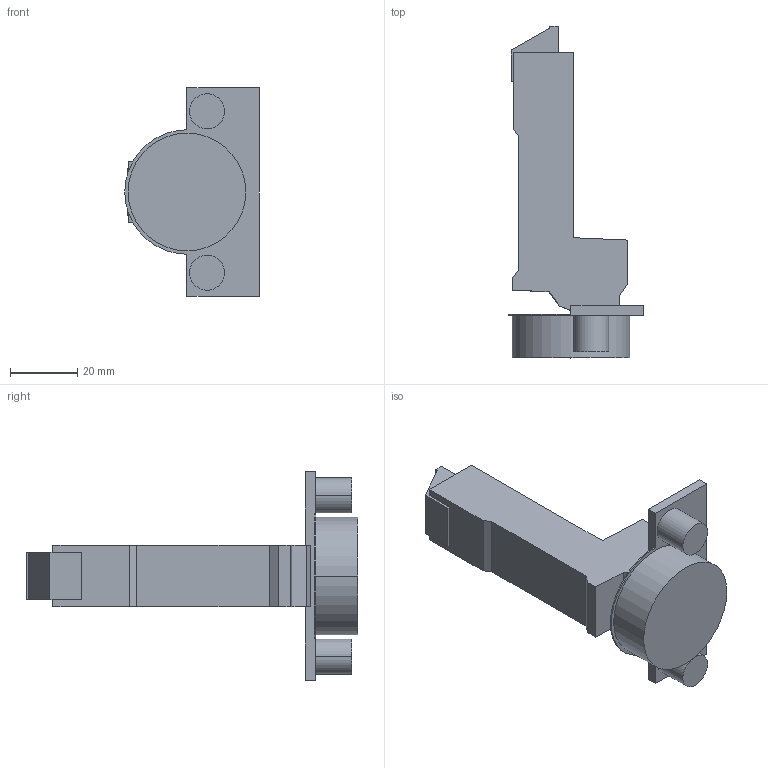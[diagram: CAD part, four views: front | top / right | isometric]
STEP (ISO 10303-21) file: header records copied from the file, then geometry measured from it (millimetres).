
FILE_DESCRIPTION (( 'STEP AP214' ), '1' );
FILE_NAME ('Scharnier T Click-on 95° S_BB, K19_Dübel.step', '2010-12-06T09:51:29', ( 'grass' ), ( '' ), 'SwSTEP 2.0', 'SolidWorks 2010', '' );
FILE_SCHEMA (( 'AUTOMOTIVE_DESIGN' ));
Length unit declared in the file: millimetre
Products named in the file (1): Scharnier T Click-on 95° S_BB, K19_Dübel
Bounding box: 40 x 98.7 x 62 mm (x, y, z)
Volume: 47039.5 mm3; surface area: 13263.3 mm2
Topology: 1 solids, 1 shells, 59 faces, 147 edges, 98 vertices
Faces by surface type: plane 41, cylinder 18
Entity records: 1791 total; most frequent: CARTESIAN_POINT 305, DIRECTION 303, ORIENTED_EDGE 294, EDGE_CURVE 147, LINE 111, VECTOR 111, VERTEX_POINT 98, AXIS2_PLACEMENT_3D 96
